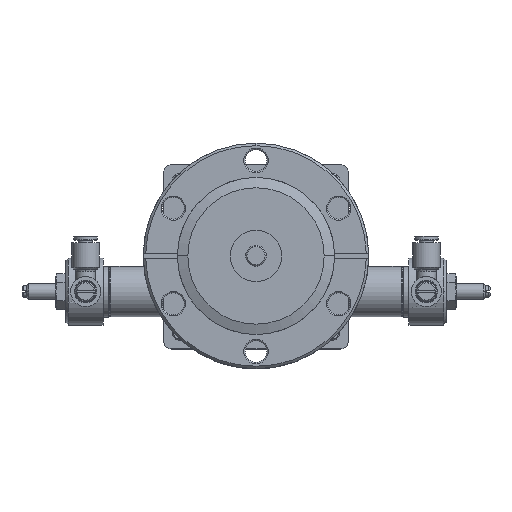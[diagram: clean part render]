
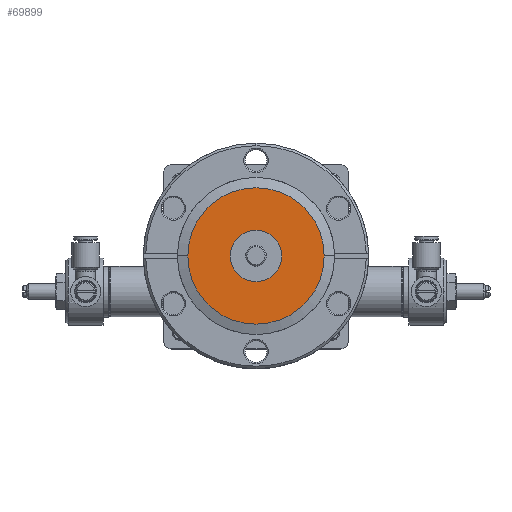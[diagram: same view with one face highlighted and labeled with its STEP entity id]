
A CAD part, top view. The second image highlights one B-rep face of the part: STEP entity #69899.
In plain terms, the highlighted planar face has unit normal (0, 0, 1).
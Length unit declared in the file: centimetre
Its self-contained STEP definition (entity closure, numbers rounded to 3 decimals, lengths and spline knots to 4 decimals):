
#10369 = CARTESIAN_POINT ( 'NONE',  ( 0., 0., -0.1295 ) ) ;
#10370 = DIRECTION ( 'NONE',  ( 0., 0., -1. ) ) ;
#10371 = DIRECTION ( 'NONE',  ( 1., 0., 0. ) ) ;
#10499 = CARTESIAN_POINT ( 'NONE',  ( 0., 0., -0.1295 ) ) ;
#10500 = DIRECTION ( 'NONE',  ( 0., 0., 1. ) ) ;
#10501 = DIRECTION ( 'NONE',  ( -1., 0., 0. ) ) ;
#12514 = EDGE_CURVE ( 'NONE', #53608, #53830, #57419, .T. ) ;
#12546 = EDGE_CURVE ( 'NONE', #53880, #53859, #57510, .T. ) ;
#22345 = AXIS2_PLACEMENT_3D ( 'NONE', #75812, #75817, #75818 ) ;
#28267 = CIRCLE ( 'NONE', #73058, 2.0955 ) ;
#28333 = CIRCLE ( 'NONE', #73087, 0.7899 ) ;
#29358 = CARTESIAN_POINT ( 'NONE',  ( 0., 0., -0.1295 ) ) ;
#29359 = DIRECTION ( 'NONE',  ( 0., 0., 1. ) ) ;
#29360 = DIRECTION ( 'NONE',  ( -1., 0., 0. ) ) ;
#29632 = CARTESIAN_POINT ( 'NONE',  ( 0., 0., -0.1295 ) ) ;
#29633 = DIRECTION ( 'NONE',  ( 0., 0., -1. ) ) ;
#29634 = DIRECTION ( 'NONE',  ( 1., 0., 0. ) ) ;
#37654 = EDGE_CURVE ( 'NONE', #53859, #53880, #28267, .T. ) ;
#37707 = EDGE_CURVE ( 'NONE', #53830, #53608, #28333, .T. ) ;
#38575 = AXIS2_PLACEMENT_3D ( 'NONE', #10369, #10370, #10371 ) ;
#38587 = AXIS2_PLACEMENT_3D ( 'NONE', #10499, #10500, #10501 ) ;
#53608 = VERTEX_POINT ( 'NONE', #59968 ) ;
#53830 = VERTEX_POINT ( 'NONE', #60120 ) ;
#53859 = VERTEX_POINT ( 'NONE', #60140 ) ;
#53880 = VERTEX_POINT ( 'NONE', #60154 ) ;
#57419 = CIRCLE ( 'NONE', #38575, 0.7899 ) ;
#57510 = CIRCLE ( 'NONE', #38587, 2.0955 ) ;
#59968 = CARTESIAN_POINT ( 'NONE',  ( -0.7899, 0., -0.1295 ) ) ;
#60120 = CARTESIAN_POINT ( 'NONE',  ( 0.7899, 0., -0.1295 ) ) ;
#60140 = CARTESIAN_POINT ( 'NONE',  ( -2.0955, 0., -0.1295 ) ) ;
#60154 = CARTESIAN_POINT ( 'NONE',  ( 2.0955, 0., -0.1295 ) ) ;
#68680 = FACE_OUTER_BOUND ( 'NONE', #89975, .T. ) ;
#68693 = FACE_BOUND ( 'NONE', #89984, .T. ) ;
#69899 = ADVANCED_FACE ( 'NONE', ( #68680, #68693 ), #75815, .T. ) ;
#73058 = AXIS2_PLACEMENT_3D ( 'NONE', #29358, #29359, #29360 ) ;
#73087 = AXIS2_PLACEMENT_3D ( 'NONE', #29632, #29633, #29634 ) ;
#75812 = CARTESIAN_POINT ( 'NONE',  ( 2.0955, 0., -0.1295 ) ) ;
#75815 = PLANE ( 'NONE',  #22345 ) ;
#75817 = DIRECTION ( 'NONE',  ( 0., 0., 1. ) ) ;
#75818 = DIRECTION ( 'NONE',  ( 1., 0., 0. ) ) ;
#81163 = ORIENTED_EDGE ( 'NONE', *, *, #37654, .T. ) ;
#81165 = ORIENTED_EDGE ( 'NONE', *, *, #12546, .T. ) ;
#81166 = ORIENTED_EDGE ( 'NONE', *, *, #37707, .T. ) ;
#81168 = ORIENTED_EDGE ( 'NONE', *, *, #12514, .T. ) ;
#89975 = EDGE_LOOP ( 'NONE', ( #81163, #81165 ) ) ;
#89984 = EDGE_LOOP ( 'NONE', ( #81166, #81168 ) ) ;
